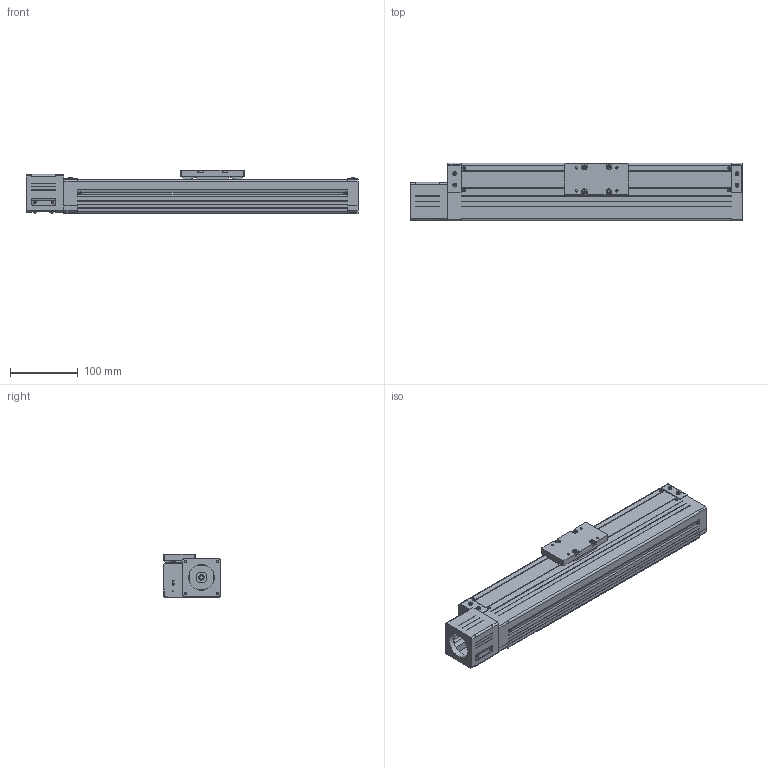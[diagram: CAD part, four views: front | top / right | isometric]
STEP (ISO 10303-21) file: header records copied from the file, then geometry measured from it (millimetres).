
FILE_DESCRIPTION((''),'2;1');
FILE_NAME('D:\製品 (図面)\カタログ用3D\SU部品\SU85×65\ダウンロード用\SU85×65-MB56\SU85×65-300-MB56.stp','2011-07-01T17:21:20',('Tsuchiya'),(''),'Autodesk Inventor 10','Autodesk Inventor 10','');
FILE_SCHEMA(('AUTOMOTIVE_DESIGN { 1 0 10303 214 1 1 1 1 }'));
Length unit declared in the file: millimetre
Products named in the file (3): SU85×65-300-MB56; SU85×65-300-MB561; SU85×65-300-MB562
Assembly tree (2 placements, depth 2):
  SU85×65-300-MB56
    SU85×65-300-MB561
    SU85×65-300-MB562
Bounding box: 491 x 85 x 65 mm (x, y, z)
Volume: 950857.8 mm3; surface area: 314820 mm2
Topology: 8 solids, 8 shells, 843 faces, 2216 edges, 1434 vertices
Faces by surface type: plane 713, cylinder 98, cone 16, torus 12, bspline 4
Full cylindrical faces by diameter (mm): 3.242 x8, 4 x4, 4.134 x8, 4.5 x4, 5.5 x4, 6 x1, 7 x4, 8 x1, 11.5 x1, 12 x1, 13 x1, 38.1 x1, 43 x1
Entity records: 25742 total; most frequent: CARTESIAN_POINT 5175, ORIENTED_EDGE 4232, DIRECTION 4032, EDGE_CURVE 2116, VECTOR 1712, LINE 1712, VERTEX_POINT 1405, AXIS2_PLACEMENT_3D 1160
